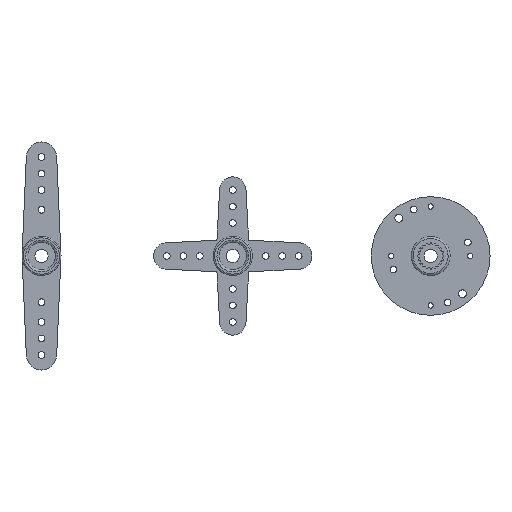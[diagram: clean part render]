
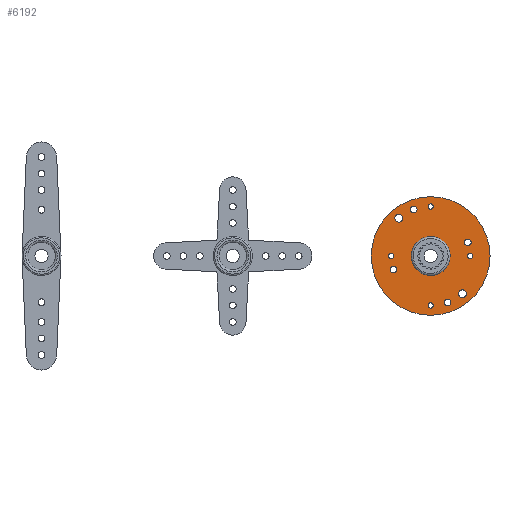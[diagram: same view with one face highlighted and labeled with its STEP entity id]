
A CAD part, front view. The second image highlights one B-rep face of the part: STEP entity #6192.
In plain terms, the highlighted planar face has unit normal (0, -1, 0).
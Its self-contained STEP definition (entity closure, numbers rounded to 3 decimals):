
#43=FACE_BOUND('',#618,.T.);
#44=FACE_BOUND('',#619,.T.);
#45=FACE_BOUND('',#620,.T.);
#46=FACE_BOUND('',#621,.T.);
#47=FACE_BOUND('',#622,.T.);
#48=FACE_BOUND('',#623,.T.);
#49=FACE_BOUND('',#624,.T.);
#50=FACE_BOUND('',#625,.T.);
#51=FACE_BOUND('',#626,.T.);
#52=FACE_BOUND('',#627,.T.);
#53=FACE_BOUND('',#628,.T.);
#121=PLANE('',#6561);
#280=FACE_OUTER_BOUND('',#617,.T.);
#617=EDGE_LOOP('',(#4134));
#618=EDGE_LOOP('',(#4135));
#619=EDGE_LOOP('',(#4136));
#620=EDGE_LOOP('',(#4137));
#621=EDGE_LOOP('',(#4138));
#622=EDGE_LOOP('',(#4139));
#623=EDGE_LOOP('',(#4140));
#624=EDGE_LOOP('',(#4141));
#625=EDGE_LOOP('',(#4142));
#626=EDGE_LOOP('',(#4143));
#627=EDGE_LOOP('',(#4144));
#628=EDGE_LOOP('',(#4145));
#2190=CIRCLE('',#6560,9.);
#2191=CIRCLE('',#6562,0.4);
#2192=CIRCLE('',#6563,0.4);
#2193=CIRCLE('',#6564,0.5);
#2194=CIRCLE('',#6565,0.5);
#2195=CIRCLE('',#6566,0.4);
#2196=CIRCLE('',#6567,0.5);
#2197=CIRCLE('',#6568,0.6);
#2198=CIRCLE('',#6569,0.4);
#2199=CIRCLE('',#6570,0.5);
#2200=CIRCLE('',#6571,0.6);
#2201=CIRCLE('',#6572,2.95);
#2556=VERTEX_POINT('',#9264);
#2557=VERTEX_POINT('',#9268);
#2558=VERTEX_POINT('',#9270);
#2559=VERTEX_POINT('',#9272);
#2560=VERTEX_POINT('',#9274);
#2561=VERTEX_POINT('',#9276);
#2562=VERTEX_POINT('',#9278);
#2563=VERTEX_POINT('',#9280);
#2564=VERTEX_POINT('',#9282);
#2565=VERTEX_POINT('',#9284);
#2566=VERTEX_POINT('',#9286);
#2567=VERTEX_POINT('',#9288);
#3187=EDGE_CURVE('',#2556,#2556,#2190,.T.);
#3188=EDGE_CURVE('',#2557,#2557,#2191,.T.);
#3189=EDGE_CURVE('',#2558,#2558,#2192,.T.);
#3190=EDGE_CURVE('',#2559,#2559,#2193,.T.);
#3191=EDGE_CURVE('',#2560,#2560,#2194,.T.);
#3192=EDGE_CURVE('',#2561,#2561,#2195,.T.);
#3193=EDGE_CURVE('',#2562,#2562,#2196,.T.);
#3194=EDGE_CURVE('',#2563,#2563,#2197,.T.);
#3195=EDGE_CURVE('',#2564,#2564,#2198,.T.);
#3196=EDGE_CURVE('',#2565,#2565,#2199,.T.);
#3197=EDGE_CURVE('',#2566,#2566,#2200,.T.);
#3198=EDGE_CURVE('',#2567,#2567,#2201,.T.);
#4134=ORIENTED_EDGE('',*,*,#3187,.F.);
#4135=ORIENTED_EDGE('',*,*,#3188,.F.);
#4136=ORIENTED_EDGE('',*,*,#3189,.F.);
#4137=ORIENTED_EDGE('',*,*,#3190,.F.);
#4138=ORIENTED_EDGE('',*,*,#3191,.F.);
#4139=ORIENTED_EDGE('',*,*,#3192,.F.);
#4140=ORIENTED_EDGE('',*,*,#3193,.F.);
#4141=ORIENTED_EDGE('',*,*,#3194,.F.);
#4142=ORIENTED_EDGE('',*,*,#3195,.F.);
#4143=ORIENTED_EDGE('',*,*,#3196,.F.);
#4144=ORIENTED_EDGE('',*,*,#3197,.F.);
#4145=ORIENTED_EDGE('',*,*,#3198,.F.);
#6192=ADVANCED_FACE('',(#280,#43,#44,#45,#46,#47,#48,#49,#50,#51,#52,#53),
#121,.F.);
#6560=AXIS2_PLACEMENT_3D('',#9266,#7273,#7274);
#6561=AXIS2_PLACEMENT_3D('',#9267,#7275,#7276);
#6562=AXIS2_PLACEMENT_3D('',#9269,#7277,#7278);
#6563=AXIS2_PLACEMENT_3D('',#9271,#7279,#7280);
#6564=AXIS2_PLACEMENT_3D('',#9273,#7281,#7282);
#6565=AXIS2_PLACEMENT_3D('',#9275,#7283,#7284);
#6566=AXIS2_PLACEMENT_3D('',#9277,#7285,#7286);
#6567=AXIS2_PLACEMENT_3D('',#9279,#7287,#7288);
#6568=AXIS2_PLACEMENT_3D('',#9281,#7289,#7290);
#6569=AXIS2_PLACEMENT_3D('',#9283,#7291,#7292);
#6570=AXIS2_PLACEMENT_3D('',#9285,#7293,#7294);
#6571=AXIS2_PLACEMENT_3D('',#9287,#7295,#7296);
#6572=AXIS2_PLACEMENT_3D('',#9289,#7297,#7298);
#7273=DIRECTION('center_axis',(0.,1.,0.));
#7274=DIRECTION('ref_axis',(1.,0.,0.));
#7275=DIRECTION('center_axis',(0.,1.,0.));
#7276=DIRECTION('ref_axis',(1.,0.,0.));
#7277=DIRECTION('center_axis',(0.,-1.,0.));
#7278=DIRECTION('ref_axis',(0.,0.,-1.));
#7279=DIRECTION('center_axis',(0.,-1.,0.));
#7280=DIRECTION('ref_axis',(0.,0.,-1.));
#7281=DIRECTION('center_axis',(0.,-1.,0.));
#7282=DIRECTION('ref_axis',(0.,0.,-1.));
#7283=DIRECTION('center_axis',(0.,-1.,0.));
#7284=DIRECTION('ref_axis',(0.,0.,-1.));
#7285=DIRECTION('center_axis',(0.,-1.,0.));
#7286=DIRECTION('ref_axis',(0.,0.,-1.));
#7287=DIRECTION('center_axis',(0.,-1.,0.));
#7288=DIRECTION('ref_axis',(0.,0.,-1.));
#7289=DIRECTION('center_axis',(0.,-1.,0.));
#7290=DIRECTION('ref_axis',(0.,0.,-1.));
#7291=DIRECTION('center_axis',(0.,-1.,0.));
#7292=DIRECTION('ref_axis',(0.,0.,-1.));
#7293=DIRECTION('center_axis',(0.,-1.,0.));
#7294=DIRECTION('ref_axis',(0.,0.,-1.));
#7295=DIRECTION('center_axis',(0.,-1.,0.));
#7296=DIRECTION('ref_axis',(0.,0.,-1.));
#7297=DIRECTION('center_axis',(0.,-1.,0.));
#7298=DIRECTION('ref_axis',(0.,0.,-1.));
#9264=CARTESIAN_POINT('',(-9.,-0.75,0.));
#9266=CARTESIAN_POINT('Origin',(0.,-0.75,0.));
#9267=CARTESIAN_POINT('Origin',(0.,-0.75,0.));
#9268=CARTESIAN_POINT('',(6.,-0.75,-0.4));
#9269=CARTESIAN_POINT('Origin',(6.,-0.75,0.));
#9270=CARTESIAN_POINT('',(-6.,-0.75,-0.4));
#9271=CARTESIAN_POINT('Origin',(-6.,-0.75,0.));
#9272=CARTESIAN_POINT('',(5.638,-0.75,1.552));
#9273=CARTESIAN_POINT('Origin',(5.638,-0.75,2.052));
#9274=CARTESIAN_POINT('',(-5.638,-0.75,-2.552));
#9275=CARTESIAN_POINT('Origin',(-5.638,-0.75,-2.052));
#9276=CARTESIAN_POINT('',(0.,-0.75,-7.9));
#9277=CARTESIAN_POINT('Origin',(0.,-0.75,-7.5));
#9278=CARTESIAN_POINT('',(2.565,-0.75,-7.548));
#9279=CARTESIAN_POINT('Origin',(2.565,-0.75,-7.048));
#9280=CARTESIAN_POINT('',(4.821,-0.75,-6.345));
#9281=CARTESIAN_POINT('Origin',(4.821,-0.75,-5.745));
#9282=CARTESIAN_POINT('',(0.,-0.75,7.1));
#9283=CARTESIAN_POINT('Origin',(0.,-0.75,7.5));
#9284=CARTESIAN_POINT('',(-2.565,-0.75,6.548));
#9285=CARTESIAN_POINT('Origin',(-2.565,-0.75,7.048));
#9286=CARTESIAN_POINT('',(-4.821,-0.75,5.145));
#9287=CARTESIAN_POINT('Origin',(-4.821,-0.75,5.745));
#9288=CARTESIAN_POINT('',(0.,-0.75,2.95));
#9289=CARTESIAN_POINT('Origin',(0.,-0.75,0.));
